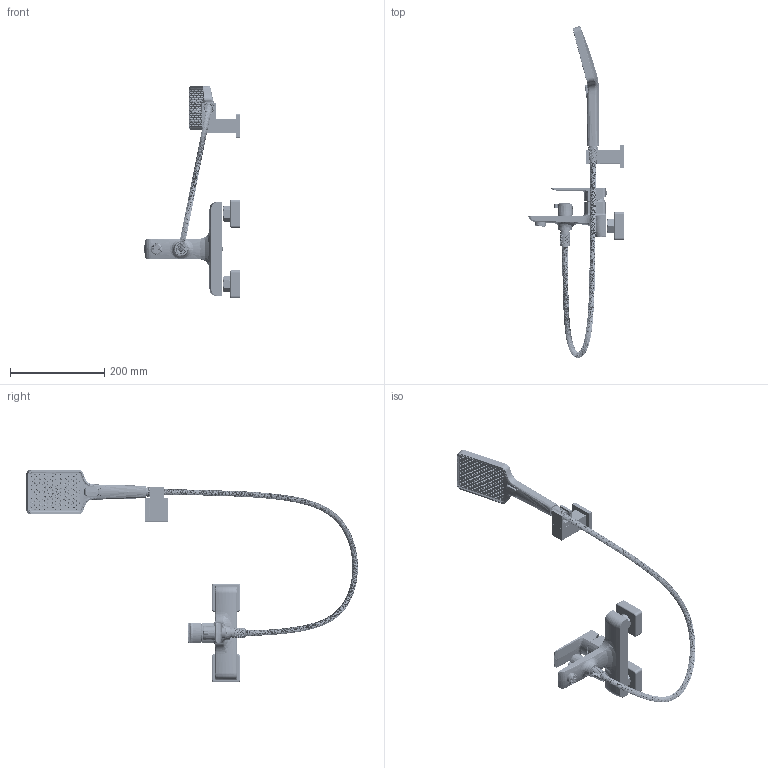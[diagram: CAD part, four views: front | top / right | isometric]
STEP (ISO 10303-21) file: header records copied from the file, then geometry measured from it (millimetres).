
FILE_DESCRIPTION((''),'2;1');
FILE_NAME('PT-639003A_ASM_ASM','2025-03-31T13:56:15',('S'),(''),'CREO PARAMETRIC BY PTC INC, 2021023','CREO PARAMETRIC BY PTC INC, 2021023','');
FILE_SCHEMA(('AUTOMOTIVE_DESIGN { 1 0 10303 214 1 1 1 1 }'));
Products named in the file (216): 5ZT-639003A-BCR_1_AF0; 3FX-001038-MAA-2_1_AF0; 3FX-001038-MAA_ASM_1_AF0_ASM; 3ZG-010013-GCR_1_AF0; 3BS-181003-HCR_1_1_AF0; 3BS-181003-HCR_1_2_AF0; 3BS-181003-HCR_1_AF0_ASM; 3LS-001064-JAA_1_AF0; 3SN-001001-MCR_1_AF0; 0018_2_AF0; 3CX-001071-BAA_ASM_2_AF0_ASM; 4SJ-001149-MAA_1_AF0; 3BS-261001A-HCR_1_AF0; 5JT-001178-ACR_1_AF0; 3WK-001004-ACR_1_AF0; 3WD-001025-MAA_1_AF0; 3JQ-001519-NAA_1_AF0; 24WZ-00_ASM_1_AF0_ASM; 3RG-001049-JCR_1_AF0; PVC0001_1; PVC0001_1_AF0; 3RG-001049-JCR_ASM_1_AF0_ASM; 3LM-001022-ACR_1; 3ZB-001003-KCR_1; _0002_ASM_1_ASM; 4TG-001029-1-GJJ_AF0_1; 4PD-001015-AJJ_1; 5TG-001029-GCR_ASM_1_ASM; 5ZG-010030-ACR_1; 5HZ-001024-ACR_1; 3PD-001016-JAA_1; 4SJ-001087-MJJ_1; 3SJ-001064-MAA_1; 3SJ-001086-MAA_1; 3SJ-001031-MAA_1; 01-0001_ASM_1_ASM; 3JQ-001156-NAA_1; 3ZB-001005-KCR_1; 3LS-001268-JAA_1; 3LM-001033-JAA_1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
Assembly tree (217 placements, depth 8):
  PT-639003A_ASM_ASM
    PT-639003A_ASM_1_AF0_ASM
      5ZT-639003A-BCR_1_AF0
      3FX-001038-MAA_ASM_1_AF0_ASM
        3FX-001038-MAA-2_1_AF0
      3ZG-010013-GCR_1_AF0
      3BS-181003-HCR_1_AF0_ASM
        3BS-181003-HCR_1_1_AF0
        3BS-181003-HCR_1_2_AF0
      3LS-001064-JAA_1_AF0
      3SN-001001-MCR_1_AF0
      3CX-001071-BAA_ASM_2_AF0_ASM
        0018_2_AF0
      4SJ-001149-MAA_1_AF0
      3BS-261001A-HCR_1_AF0
      5JT-001178-ACR_1_AF0
      24WZ-00_ASM_1_AF0_ASM
        3WK-001004-ACR_1_AF0
        3WD-001025-MAA_1_AF0
        3JQ-001519-NAA_1_AF0
      3RG-001049-JCR_ASM_1_AF0_ASM
        3RG-001049-JCR_1_AF0
        PVC0001_1
        PVC0001_1_AF0
      _0002_ASM_1_ASM  x2
        3LM-001022-ACR_1
        3ZB-001003-KCR_1
      5HZ-001025-GCR_ASM_1_ASM
        5TG-001029-GCR_ASM_1_ASM
          4TG-001029-1-GJJ_AF0_1
          4PD-001015-AJJ_1
        5ZG-010030-ACR_1
        01-0001_ASM_1_ASM
          5HZ-001024-ACR_1
          3PD-001016-JAA_1  x2
          4SJ-001087-MJJ_1
          3SJ-001064-MAA_1
          3SJ-001086-MAA_1
          3SJ-001031-MAA_1
        3JQ-001156-NAA_1
        3ZB-001005-KCR_1
        3LS-001268-JAA_1
        3LM-001033-JAA_1
      3SC-001027-MCR_ASM_1_ASM
        S913-00_ASM_389_ASM_1_ASM
          S913-01_216_1
          S913-02_ASM_14_ASM_1_ASM
            S913-03_ASM_22_ASM_1_ASM
              S913-03_147_ASM_1_ASM
                S913-03_147_1_1
                S913-03_147_2_1
                S913-03_147_3_1
                S913-03_147_4_1
                S913-03_147_5_1
                S913-03_147_6_1
                S913-03_147_7_1
                S913-03_147_8_1
                S913-03_147_9_1
                S913-03_147_10_1
                S913-03_147_11_1
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Bounding box: 202.6 x 705.96 x 452.56 mm (x, y, z)
Volume: 421698.5 mm3; surface area: 354991.3 mm2
Topology: 202 solids, 202 shells, 9778 faces, 24054 edges, 14765 vertices
Faces by surface type: bspline 3228, cone 2538, plane 2211, cylinder 1122, torus 529, sphere 99, extrusion 51
Entity records: 584616 total; most frequent: CARTESIAN_POINT 357675, ORIENTED_EDGE 47286, DIRECTION 32937, EDGE_CURVE 23643, VERTEX_POINT 14556, AXIS2_PLACEMENT_3D 13372, B_SPLINE_CURVE_WITH_KNOTS 11229, EDGE_LOOP 11043
